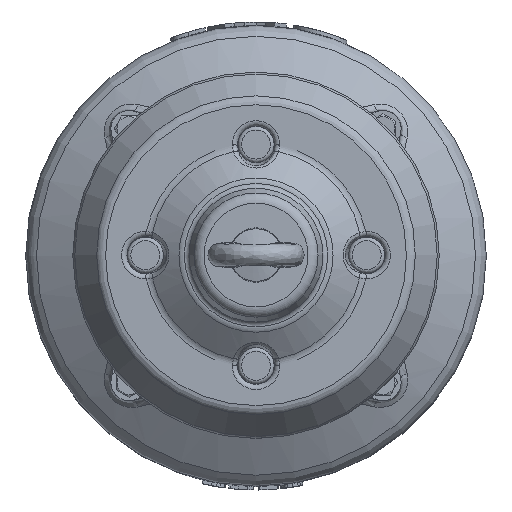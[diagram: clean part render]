
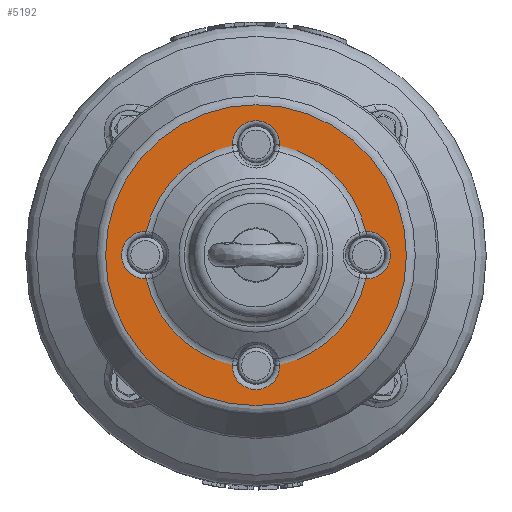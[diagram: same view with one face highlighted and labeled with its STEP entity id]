
A CAD part, top view. The second image highlights one B-rep face of the part: STEP entity #5192.
In plain terms, the highlighted planar face has unit normal (0, 0, 1).
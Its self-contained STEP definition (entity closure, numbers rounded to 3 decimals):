
#5192=ADVANCED_FACE('',(#21619,#21621),#21623,.T.);
#21619=FACE_BOUND('',#21620,.T.);
#21620=EDGE_LOOP('',(#72714));
#21621=FACE_BOUND('',#21622,.T.);
#21622=EDGE_LOOP('',(#72715,#72716,#72717,#72718,#72719,#72720,#72721,#72722));
#21623=PLANE('',#21624);
#21624=AXIS2_PLACEMENT_3D('',#21625,#21626,#21627);
#21625=CARTESIAN_POINT('',(0.,0.,26.67));
#21626=DIRECTION('',(0.,0.,1.));
#21627=DIRECTION('',(-1.,0.,0.));
#72714=ORIENTED_EDGE('',*,*,#77524,.F.);
#72715=ORIENTED_EDGE('',*,*,#77460,.T.);
#72716=ORIENTED_EDGE('',*,*,#77525,.F.);
#72717=ORIENTED_EDGE('',*,*,#77491,.T.);
#72718=ORIENTED_EDGE('',*,*,#77526,.F.);
#72719=ORIENTED_EDGE('',*,*,#77481,.T.);
#72720=ORIENTED_EDGE('',*,*,#77527,.F.);
#72721=ORIENTED_EDGE('',*,*,#77471,.T.);
#72722=ORIENTED_EDGE('',*,*,#77528,.F.);
#77460=EDGE_CURVE('',#82328,#82329,#82330,.T.);
#77471=EDGE_CURVE('',#82348,#82349,#82350,.T.);
#77481=EDGE_CURVE('',#82366,#82367,#82368,.T.);
#77491=EDGE_CURVE('',#82384,#82385,#82386,.T.);
#77524=EDGE_CURVE('',#82440,#82440,#82441,.T.);
#77525=EDGE_CURVE('',#82384,#82329,#82442,.F.);
#77526=EDGE_CURVE('',#82366,#82385,#82443,.F.);
#77527=EDGE_CURVE('',#82348,#82367,#82444,.F.);
#77528=EDGE_CURVE('',#82328,#82349,#82445,.F.);
#82328=VERTEX_POINT('',#110516);
#82329=VERTEX_POINT('',#110517);
#82330=CIRCLE('',#110518,61.914);
#82348=VERTEX_POINT('',#110734);
#82349=VERTEX_POINT('',#110735);
#82350=CIRCLE('',#110736,61.914);
#82366=VERTEX_POINT('',#110926);
#82367=VERTEX_POINT('',#110927);
#82368=CIRCLE('',#110928,61.914);
#82384=VERTEX_POINT('',#111118);
#82385=VERTEX_POINT('',#111119);
#82386=CIRCLE('',#111120,61.914);
#82440=VERTEX_POINT('',#111727);
#82441=CIRCLE('',#111728,82.937);
#82442=CIRCLE('',#111732,13.104);
#82443=CIRCLE('',#111736,13.104);
#82444=CIRCLE('',#111740,13.104);
#82445=CIRCLE('',#111744,13.104);
#110516=CARTESIAN_POINT('',(-60.513,13.095,26.67));
#110517=CARTESIAN_POINT('',(-13.095,60.513,26.67));
#110518=AXIS2_PLACEMENT_3D('',#110519,#110520,#110521);
#110519=CARTESIAN_POINT('',(0.,0.,26.67));
#110520=DIRECTION('',(0.,0.,-1.));
#110521=DIRECTION('',(-0.977,0.212,0.));
#110734=CARTESIAN_POINT('',(-13.095,-60.513,26.67));
#110735=CARTESIAN_POINT('',(-60.513,-13.095,26.67));
#110736=AXIS2_PLACEMENT_3D('',#110737,#110738,#110739);
#110737=CARTESIAN_POINT('',(0.,0.,26.67));
#110738=DIRECTION('',(0.,0.,-1.));
#110739=DIRECTION('',(-0.212,-0.977,0.));
#110926=CARTESIAN_POINT('',(60.513,-13.095,26.67));
#110927=CARTESIAN_POINT('',(13.095,-60.513,26.67));
#110928=AXIS2_PLACEMENT_3D('',#110929,#110930,#110931);
#110929=CARTESIAN_POINT('',(0.,0.,26.67));
#110930=DIRECTION('',(0.,0.,-1.));
#110931=DIRECTION('',(0.977,-0.212,0.));
#111118=CARTESIAN_POINT('',(13.095,60.513,26.67));
#111119=CARTESIAN_POINT('',(60.513,13.095,26.67));
#111120=AXIS2_PLACEMENT_3D('',#111121,#111122,#111123);
#111121=CARTESIAN_POINT('',(0.,0.,26.67));
#111122=DIRECTION('',(0.,0.,-1.));
#111123=DIRECTION('',(0.212,0.977,0.));
#111727=CARTESIAN_POINT('',(-82.937,0.,26.67));
#111728=AXIS2_PLACEMENT_3D('',#111729,#111730,#111731);
#111729=CARTESIAN_POINT('',(0.,0.,26.67));
#111730=DIRECTION('',(0.,0.,-1.));
#111731=DIRECTION('',(-1.,0.,0.));
#111732=AXIS2_PLACEMENT_3D('',#111733,#111734,#111735);
#111733=CARTESIAN_POINT('',(0.,61.,26.67));
#111734=DIRECTION('',(0.,0.,-1.));
#111735=DIRECTION('',(-0.999,-0.037,0.));
#111736=AXIS2_PLACEMENT_3D('',#111737,#111738,#111739);
#111737=CARTESIAN_POINT('',(61.,0.,26.67));
#111738=DIRECTION('',(0.,0.,-1.));
#111739=DIRECTION('',(-0.037,0.999,0.));
#111740=AXIS2_PLACEMENT_3D('',#111741,#111742,#111743);
#111741=CARTESIAN_POINT('',(0.,-61.,26.67));
#111742=DIRECTION('',(0.,0.,-1.));
#111743=DIRECTION('',(0.999,0.037,0.));
#111744=AXIS2_PLACEMENT_3D('',#111745,#111746,#111747);
#111745=CARTESIAN_POINT('',(-61.,0.,26.67));
#111746=DIRECTION('',(0.,0.,-1.));
#111747=DIRECTION('',(0.037,-0.999,0.));
